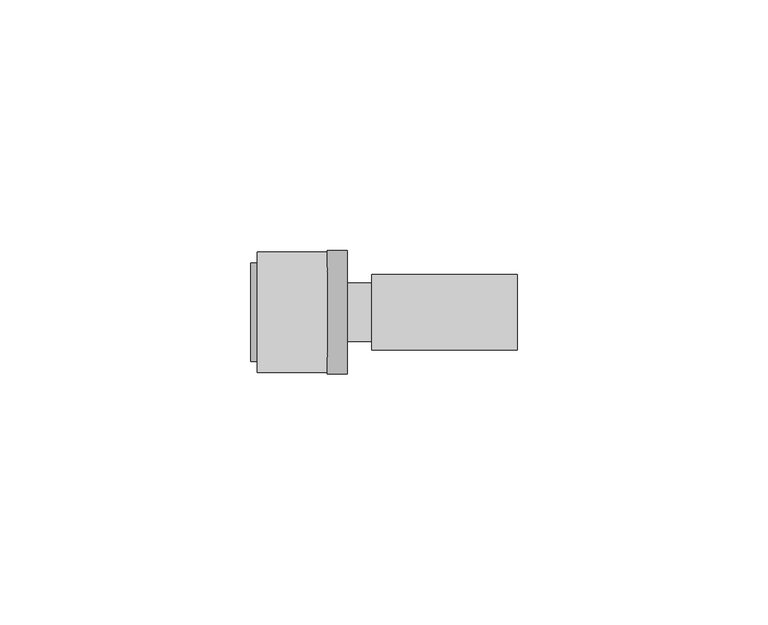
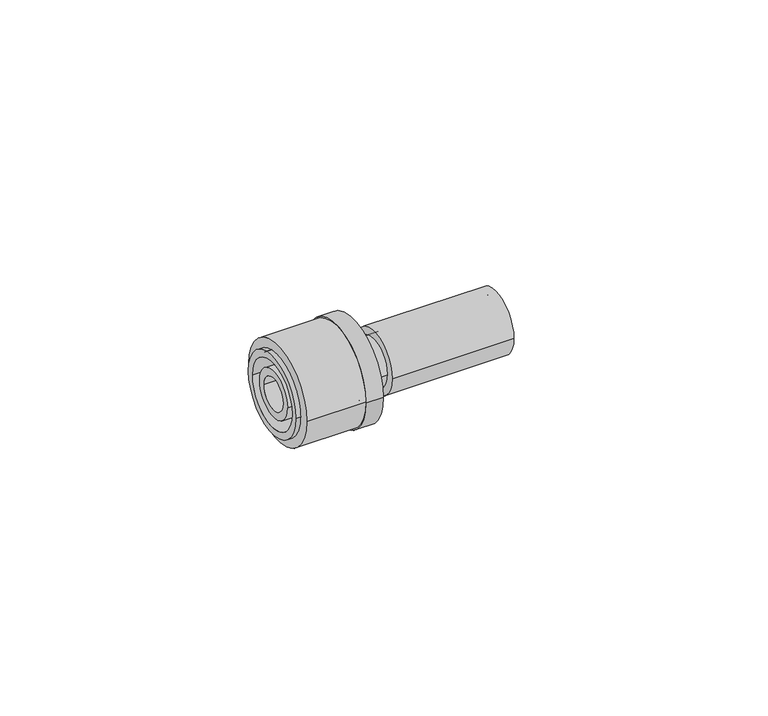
"""IFC4 building model written with IfcOpenShell, lengths in millimetres: pipe fitting geometry, FASTLOC Copper press adapter RX+ : FSL RX+ AT."""

from ifc_helpers import new_model, si_unit, point, frame, origin, origin_2d, place, context, project, spatial, polyline, circle_curve, trimmed, segment, composite_curve, outline, extrude, source, transform, mapped, element, save
from ifc_brep_helpers import plane_surface, cylinder_surface, revolved_surface, advanced_brep


def pipe_fitting_2cdc80e6(model_context):
    return source(origin(), model_context, "Body", "SolidModel", [
        extrude(outline(composite_curve([segment(trimmed(circle_curve(origin_2d(), 12.0), [point((12.0, 0.0))], [point((-12.0, 0.0))], False, "CARTESIAN"), True, "CONTINUOUS"), segment(trimmed(circle_curve(origin_2d(), 12.0), [point((-12.0, 0.0))], [point((12.0, 0.0))], False, "CARTESIAN"), True, "CONTINUOUS")], self_intersect=False), holes=[composite_curve([segment(trimmed(circle_curve(origin_2d(), 8.85), [point((8.85, 0.0))], [point((-8.85, 0.0))], True, "CARTESIAN"), True, "CONTINUOUS"), segment(trimmed(circle_curve(origin_2d(), 8.85), [point((-8.85, 0.0))], [point((8.85, 0.0))], True, "CARTESIAN"), True, "CONTINUOUS")], self_intersect=False)]), frame((-22.9, 0.0, 0.0), z_axis=(1.0, 0.0, 0.0), x_axis=(0.0, 1.0, 0.0)), (0.0, 0.0, 1.0), 14.0),
        advanced_brep(
        [(-8.9, -12.35, 0.0), (-8.9, 12.35, 0.0), (-4.9, 12.35, 0.0), (-4.9, -12.35, 0.0), (-24.2, -9.85, 0.0), (-24.2, 9.85, 0.0), (-8.9, 9.85, 0.0), (-8.9, -9.85, 0.0), (-4.9, -8.15, 0.0), (-4.9, 8.15, 0.0), (-24.2, 8.15, 0.0), (-24.2, -8.15, 0.0)],
        [
            (0, 1, circle_curve(frame((-8.9, 0.0, 0.0), z_axis=(1.0, 0.0, 0.0), x_axis=(0.0, 1.0, 0.0)), 12.35)),
            (1, 2),
            (2, 3, circle_curve(frame((-4.9, 0.0, 0.0), z_axis=(-1.0, 0.0, 0.0), x_axis=(0.0, 1.0, 0.0)), 12.35)),
            (3, 0),
            (4, 5, circle_curve(frame((-24.2, 0.0, 0.0), z_axis=(1.0, 0.0, 0.0), x_axis=(0.0, 1.0, 0.0)), 9.85)),
            (5, 6),
            (6, 7, circle_curve(frame((-8.9, 0.0, 0.0), z_axis=(-1.0, 0.0, 0.0), x_axis=(0.0, 1.0, 0.0)), 9.85)),
            (7, 4),
            (8, 9, circle_curve(frame((-4.9, 0.0, 0.0), z_axis=(1.0, 0.0, 0.0), x_axis=(0.0, 1.0, 0.0)), 8.15)),
            (9, 10),
            (10, 11, circle_curve(frame((-24.2, 0.0, 0.0), z_axis=(-1.0, 0.0, 0.0), x_axis=(0.0, 1.0, 0.0)), 8.15)),
            (11, 8),
            (1, 0, circle_curve(frame((-8.9, 0.0, 0.0), z_axis=(1.0, 0.0, 0.0), x_axis=(0.0, -1.0, 0.0)), 12.35)),
            (3, 2, circle_curve(frame((-4.9, 0.0, 0.0), z_axis=(-1.0, 0.0, 0.0), x_axis=(0.0, -1.0, 0.0)), 12.35)),
            (6, 7, circle_curve(frame((-8.9, 0.0, 0.0), z_axis=(1.0, 0.0, 0.0), x_axis=(0.0, -1.0, 0.0)), 9.85)),
            (5, 4, circle_curve(frame((-24.2, 0.0, 0.0), z_axis=(1.0, 0.0, 0.0), x_axis=(0.0, -1.0, 0.0)), 9.85)),
            (10, 11, circle_curve(frame((-24.2, 0.0, 0.0), z_axis=(1.0, 0.0, 0.0), x_axis=(0.0, -1.0, 0.0)), 8.15)),
            (9, 8, circle_curve(frame((-4.9, 0.0, 0.0), z_axis=(1.0, 0.0, 0.0), x_axis=(0.0, -1.0, 0.0)), 8.15)),
        ],
        [
            cylinder_surface(frame((-4.9, 0.0, 0.0), z_axis=(-1.0, 0.0, 0.0), x_axis=(0.0, 1.0, 0.0)), 12.35),
            cylinder_surface(frame((-4.9, 0.0, 0.0), z_axis=(-1.0, 0.0, 0.0), x_axis=(0.0, 1.0, 0.0)), 9.85),
            revolved_surface(polyline([(-24.199999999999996, 8.15, 0.0), (-4.9, 8.15, 0.0)]), (-4.9, 0.0, 0.0), (-1.0, 0.0, 0.0)),
            cylinder_surface(frame((-4.9, 0.0, 0.0), z_axis=(-1.0, 0.0, 0.0), x_axis=(0.0, -1.0, 0.0)), 12.35),
            plane_surface(frame((-8.9, 0.0, 0.0), z_axis=(-1.0, 0.0, 0.0), x_axis=(0.0, -1.0, 0.0))),
            cylinder_surface(frame((-4.9, 0.0, 0.0), z_axis=(-1.0, 0.0, 0.0), x_axis=(0.0, -1.0, 0.0)), 9.85),
            plane_surface(frame((-24.2, 0.0, 0.0), z_axis=(-1.0, 0.0, 0.0), x_axis=(0.0, -1.0, 0.0))),
            revolved_surface(polyline([(-24.199999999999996, -8.15, 0.0), (-4.9, -8.15, 0.0)]), (-4.9, 0.0, 0.0), (-1.0, 0.0, 0.0)),
            plane_surface(frame((-4.9, 0.0, 0.0), z_axis=(1.0, 0.0, 0.0), x_axis=(0.0, -1.0, 0.0))),
        ],
        [
            (0, [[1, 2, 3, 4]]),
            (1, [[5, 6, 7, 8]]),
            (2, [[9, 10, 11, 12]]),
            (3, [[13, -4, 14, -2]]),
            (4, [[-13, -1], [15, -7]]),
            (5, [[16, -8, -15, -6]]),
            (6, [[-16, -5], [17, -11]]),
            (7, [[18, -12, -17, -10]]),
            (8, [[-14, -3], [-18, -9]]),
        ],
    ),
        extrude(outline(composite_curve([segment(trimmed(circle_curve(origin_2d(), 7.5), [point((-7.5, 0.0))], [point((7.5, 0.0))], False, "CARTESIAN"), True, "CONTINUOUS"), segment(trimmed(circle_curve(origin_2d(), 7.5), [point((7.5, 0.0))], [point((-7.5, 0.0))], False, "CARTESIAN"), True, "CONTINUOUS")], self_intersect=False), holes=[composite_curve([segment(trimmed(circle_curve(origin_2d(), 5.5), [point((-5.5, 0.0))], [point((5.5, 0.0))], True, "CARTESIAN"), True, "CONTINUOUS"), segment(trimmed(circle_curve(origin_2d(), 5.5), [point((5.5, 0.0))], [point((-5.5, 0.0))], True, "CARTESIAN"), True, "CONTINUOUS")], self_intersect=False)]), frame((0.0, 0.0, 0.0), z_axis=(1.0, 0.0, 0.0), x_axis=(0.0, 1.0, 0.0)), (0.0, 0.0, 1.0), 29.0),
        advanced_brep(
        [(-8.9, 5.8, 0.0), (-8.9, -5.8, 0.0), (-23.9, -5.8, 0.0), (-23.9, 5.8, 0.0), (-6.2, 6.9, 0.0), (-6.2, -6.9, 0.0), (-8.9, -6.9, 0.0), (-8.9, 6.9, 0.0), (0.0, 5.8, 0.0), (0.0, -5.8, 0.0), (-6.2, -5.8, 0.0), (-6.2, 5.8, 0.0), (-23.9, 3.95, 0.0), (-23.9, -3.95, 0.0), (0.0, -3.95, 0.0), (0.0, 3.95, 0.0)],
        [
            (0, 1, circle_curve(frame((-8.9, 0.0, 0.0), z_axis=(-1.0, 0.0, 0.0), x_axis=(0.0, -1.0, 0.0)), 5.8)),
            (1, 2),
            (2, 3, circle_curve(frame((-23.9, 0.0, 0.0), z_axis=(1.0, 0.0, 0.0), x_axis=(0.0, -1.0, 0.0)), 5.8)),
            (3, 0),
            (4, 5, circle_curve(frame((-6.2, 0.0, 0.0), z_axis=(-1.0, 0.0, 0.0), x_axis=(0.0, -1.0, 0.0)), 6.9)),
            (5, 6),
            (6, 7, circle_curve(frame((-8.9, 0.0, 0.0), z_axis=(1.0, 0.0, 0.0), x_axis=(0.0, -1.0, 0.0)), 6.9)),
            (7, 4),
            (8, 9, circle_curve(frame((0.0, 0.0, 0.0), z_axis=(-1.0, 0.0, 0.0), x_axis=(0.0, -1.0, 0.0)), 5.8)),
            (9, 10),
            (10, 11, circle_curve(frame((-6.2, 0.0, 0.0), z_axis=(1.0, 0.0, 0.0), x_axis=(0.0, -1.0, 0.0)), 5.8)),
            (11, 8),
            (12, 13, circle_curve(frame((-23.9, 0.0, 0.0), z_axis=(-1.0, 0.0, 0.0), x_axis=(0.0, -1.0, 0.0)), 3.95)),
            (13, 14),
            (14, 15, circle_curve(frame((0.0, 0.0, 0.0), z_axis=(1.0, 0.0, 0.0), x_axis=(0.0, -1.0, 0.0)), 3.95)),
            (15, 12),
            (2, 3, circle_curve(frame((-23.9, 0.0, 0.0), z_axis=(-1.0, 0.0, 0.0), x_axis=(0.0, 1.0, 0.0)), 5.8)),
            (12, 13, circle_curve(frame((-23.9, 0.0, 0.0), z_axis=(1.0, 0.0, 0.0), x_axis=(0.0, 1.0, 0.0)), 3.95)),
            (1, 0, circle_curve(frame((-8.9, 0.0, 0.0), z_axis=(-1.0, 0.0, 0.0), x_axis=(0.0, 1.0, 0.0)), 5.8)),
            (6, 7, circle_curve(frame((-8.9, 0.0, 0.0), z_axis=(-1.0, 0.0, 0.0), x_axis=(0.0, 1.0, 0.0)), 6.9)),
            (5, 4, circle_curve(frame((-6.2, 0.0, 0.0), z_axis=(-1.0, 0.0, 0.0), x_axis=(0.0, 1.0, 0.0)), 6.9)),
            (10, 11, circle_curve(frame((-6.2, 0.0, 0.0), z_axis=(-1.0, 0.0, 0.0), x_axis=(0.0, 1.0, 0.0)), 5.8)),
            (9, 8, circle_curve(frame((0.0, 0.0, 0.0), z_axis=(-1.0, 0.0, 0.0), x_axis=(0.0, 1.0, 0.0)), 5.8)),
            (14, 15, circle_curve(frame((0.0, 0.0, 0.0), z_axis=(-1.0, 0.0, 0.0), x_axis=(0.0, 1.0, 0.0)), 3.95)),
        ],
        [
            cylinder_surface(frame((0.0, 0.0, 0.0), z_axis=(1.0, 0.0, 0.0), x_axis=(0.0, -1.0, 0.0)), 5.8),
            cylinder_surface(frame((0.0, 0.0, 0.0), z_axis=(1.0, 0.0, 0.0), x_axis=(0.0, -1.0, 0.0)), 6.9),
            revolved_surface(polyline([(0.0, -3.95, 0.0), (-23.9, -3.95, 0.0)]), (0.0, 0.0, 0.0), (1.0, 0.0, 0.0)),
            plane_surface(frame((-23.9, 0.0, 0.0), z_axis=(-1.0, 0.0, 0.0), x_axis=(0.0, 1.0, 0.0))),
            cylinder_surface(frame((0.0, 0.0, 0.0), z_axis=(1.0, 0.0, 0.0), x_axis=(0.0, 1.0, 0.0)), 5.8),
            plane_surface(frame((-8.9, 0.0, 0.0), z_axis=(-1.0, 0.0, 0.0), x_axis=(0.0, 1.0, 0.0))),
            cylinder_surface(frame((0.0, 0.0, 0.0), z_axis=(1.0, 0.0, 0.0), x_axis=(0.0, 1.0, 0.0)), 6.9),
            plane_surface(frame((-6.2, 0.0, 0.0), z_axis=(1.0, 0.0, 0.0), x_axis=(0.0, 1.0, 0.0))),
            plane_surface(frame((0.0, 0.0, 0.0), z_axis=(1.0, 0.0, 0.0), x_axis=(0.0, 1.0, 0.0))),
            revolved_surface(polyline([(0.0, 3.95, 0.0), (-23.9, 3.95, 0.0)]), (0.0, 0.0, 0.0), (1.0, 0.0, 0.0)),
        ],
        [
            (0, [[1, 2, 3, 4]]),
            (1, [[5, 6, 7, 8]]),
            (0, [[9, 10, 11, 12]]),
            (2, [[13, 14, 15, 16]]),
            (3, [[17, -3], [18, -13]]),
            (4, [[19, -4, -17, -2]]),
            (5, [[20, -7], [-19, -1]]),
            (6, [[21, -8, -20, -6]]),
            (7, [[-21, -5], [22, -11]]),
            (4, [[23, -12, -22, -10]]),
            (8, [[-23, -9], [24, -15]]),
            (9, [[-18, -16, -24, -14]]),
        ],
    ),
    ])


if __name__ == "__main__":
    model = new_model("IFC4")
    model_context = context("Model", 3, world=origin())
    ifc_project = project(units=[si_unit("LENGTHUNIT", "METRE", prefix="MILLI")], contexts=[model_context])
    site = spatial("IfcSite", under=ifc_project)
    building = spatial("IfcBuilding", under=site)
    placement = place(None, origin())
    pipe_fitting_shape = pipe_fitting_2cdc80e6(model_context)
    element("IfcPipeFitting", 1, ObjectType="FASTLOC Copper press adapter RX+ : FSL RX+ AT", at=placement, inside=building, context=model_context, shape_type="MappedRepresentation", body=[
        mapped(pipe_fitting_shape, transform((0.0, 0.0, 0.0), x_axis=(1.0, 0.0, 0.0), y_axis=(0.0, 1.0, 0.0), z_axis=(0.0, 0.0, 1.0))),
    ])
    save(model, "model.ifc")
